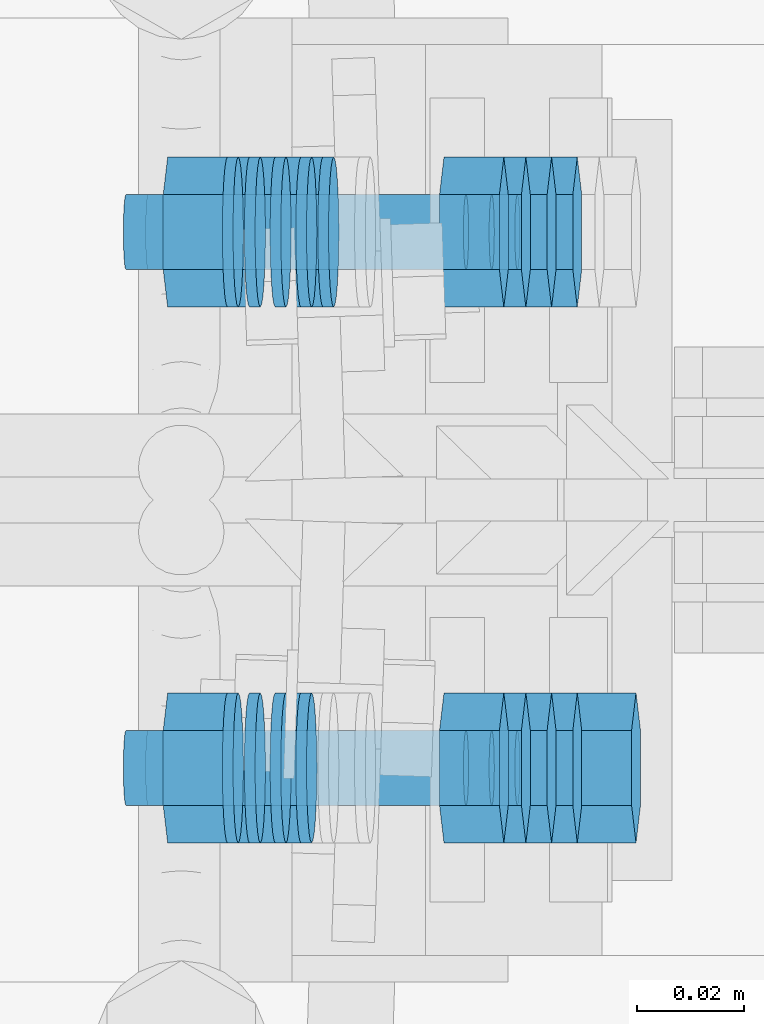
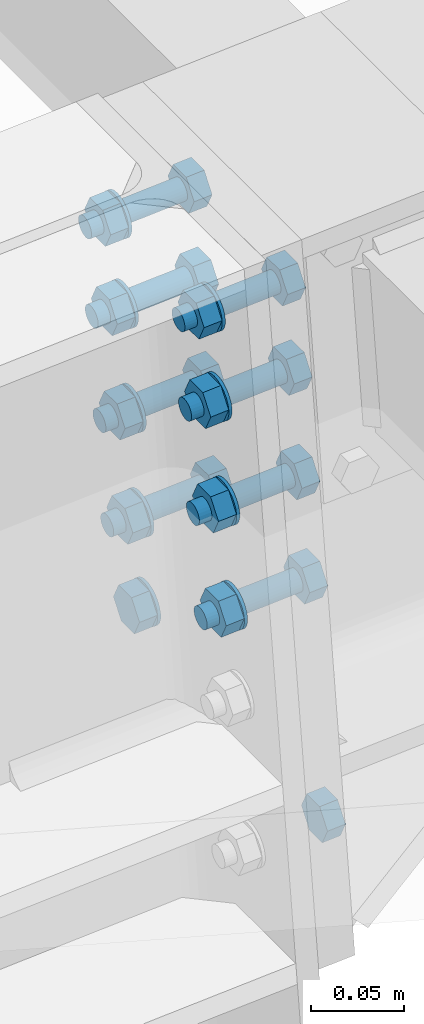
# One storey, part 36 of 72: 35 mechanical fasteners.
"""IFC4 building model written with IfcOpenShell, lengths in metres."""

import ifcopenshell
import ifcopenshell.guid

model = None  # the IFC model being written
_history = None  # IfcOwnerHistory: only IFC2X3 demands one
_inside = {}  # id of a spatial element -> (the spatial element, [elements in it])
_under = {}  # id of a project, library or spatial element -> (it, [spatial elements below it])
_declared = {}  # id of a project -> (the project, [libraries it declares])
_typed = {}  # id of a type object -> (the type object, [elements of that type])
_made_of = {}  # id of a material, layer set ... -> (it, [elements and type objects made of it])


def new_model(schema):
    """Start an empty IFC model of exactly this schema.

    Asked for "IFC4X3", IfcOpenShell would pick the latest addendum, in which some entities
    have other attributes; the version numbers below select the first issue.
    IFC2X3 requires an IfcOwnerHistory on every rooted entity: one is made here for all.
    """
    global model, _history
    if schema == "IFC4X3":
        model = ifcopenshell.file(schema_version=(4, 3, 0, 0))
    else:
        model = ifcopenshell.file(schema=schema)
    _inside.clear()
    _under.clear()
    _declared.clear()
    _typed.clear()
    _made_of.clear()
    _history = None
    if model.schema == "IFC2X3":
        org = make("IfcOrganization", Name="unknown")
        user = make(
            "IfcPersonAndOrganization",
            ThePerson=make("IfcPerson", FamilyName="unknown"),
            TheOrganization=org,
        )
        app = make(
            "IfcApplication",
            ApplicationDeveloper=org,
            Version="unknown",
            ApplicationFullName="unknown",
            ApplicationIdentifier="unknown",
        )
        _history = make(
            "IfcOwnerHistory",
            OwningUser=user,
            OwningApplication=app,
            ChangeAction="ADDED",
            CreationDate=0,
        )
    return model


def make(cls, **values):
    """One entity of the class cls with the attributes given. An attribute that is None is left unset."""
    return model.create_entity(
        cls, **{name: value for name, value in values.items() if value is not None}
    )


def rooted(cls, **values):
    """An entity with a GlobalId (a new one), such as an element, a storey or a relation."""
    return make(cls, GlobalId=ifcopenshell.guid.new(), OwnerHistory=_history, **values)


def si_unit(unit_type, name, prefix=None):
    """IfcSIUnit, for example si_unit("LENGTHUNIT", "METRE", prefix="MILLI")."""
    return make("IfcSIUnit", UnitType=unit_type, Prefix=prefix, Name=name)


def assignment(units):
    """IfcUnitAssignment: the units of a project."""
    return None if units is None else make("IfcUnitAssignment", Units=units)


def point(xyz):
    """IfcCartesianPoint."""
    return None if xyz is None else make("IfcCartesianPoint", Coordinates=xyz)


def direction(xyz):
    """IfcDirection."""
    return None if xyz is None else make("IfcDirection", DirectionRatios=xyz)


def frame(location, z_axis=None, x_axis=None):
    """IfcAxis2Placement3D, a coordinate frame: its origin and axes. An axis left out is left unset."""
    return make(
        "IfcAxis2Placement3D",
        Location=point(location),
        Axis=direction(z_axis),
        RefDirection=direction(x_axis),
    )


def origin_with_axes():
    """The frame at (0, 0, 0) with the z axis (0, 0, 1) and the x axis (1, 0, 0) written out."""
    return frame((0.0, 0.0, 0.0), z_axis=(0.0, 0.0, 1.0), x_axis=(1.0, 0.0, 0.0))


def place(relative_to, where):
    """IfcLocalPlacement: puts the frame where relative to a parent placement (None: the world)."""
    return make(
        "IfcLocalPlacement", PlacementRelTo=relative_to, RelativePlacement=where
    )


def context(
    kind, dimensions, precision=None, world=None, true_north=None, identifier=None
):
    """IfcGeometricRepresentationContext, for example the 3D "Model" context."""
    return make(
        "IfcGeometricRepresentationContext",
        ContextIdentifier=identifier,
        ContextType=kind,
        CoordinateSpaceDimension=dimensions,
        Precision=precision,
        WorldCoordinateSystem=world,
        TrueNorth=true_north,
    )


def project(units=None, contexts=None):
    """IfcProject with its units and contexts."""
    return rooted(
        "IfcProject",
        Name="project",
        RepresentationContexts=contexts,
        UnitsInContext=assignment(units),
    )


def spatial(cls, under=None, at=None, **own):
    """A site, building, storey or space (cls), placed at a placement, below another one or the project."""
    s = rooted(cls, ObjectPlacement=at, **own)
    if under is not None:
        _under.setdefault(under.id(), (under, []))[1].append(s)
    return s


def polyline(points):
    """IfcPolyline through the points."""
    return make("IfcPolyline", Points=[point(p) for p in points])


def outline(outer, holes=None, kind="AREA"):
    """IfcArbitraryClosedProfileDef: a profile drawn as a closed curve; with holes, ...WithVoids."""
    if holes is None:
        return make("IfcArbitraryClosedProfileDef", ProfileType=kind, OuterCurve=outer)
    return make(
        "IfcArbitraryProfileDefWithVoids",
        ProfileType=kind,
        OuterCurve=outer,
        InnerCurves=holes,
    )


def extrude(swept, where, along, depth):
    """IfcExtrudedAreaSolid: the profile swept, set in the frame where, extruded along a direction by depth."""
    return make(
        "IfcExtrudedAreaSolid",
        SweptArea=swept,
        Position=where,
        ExtrudedDirection=direction(along),
        Depth=depth,
    )


def shape(context_of_items, identifier, shape_type, items):
    """IfcShapeRepresentation: the items that make up one representation, for example the "Body"."""
    return make(
        "IfcShapeRepresentation",
        ContextOfItems=context_of_items,
        RepresentationIdentifier=identifier,
        RepresentationType=shape_type,
        Items=items,
    )


def made_of(thing, what):
    """Note that an element or type object is made of a material, layer set ...; save() writes the relation."""
    if what is not None:
        _made_of.setdefault(what.id(), (what, []))[1].append(thing)
    return thing


def type_object(cls, material=None, **own):
    """A type object (cls), such as IfcWallType, which elements share."""
    return made_of(rooted(cls, **own), material)


def element(
    cls,
    number,
    at=None,
    inside=None,
    cuts=None,
    type_object=None,
    material=None,
    context=None,
    identifier="Body",
    shape_type=None,
    held_by="IfcProductDefinitionShape",
    body=None,
    shapes=None,
    **own,
):
    """One element of the class cls, such as IfcWall. Its Tag is "e" and its number.

    at: its placement. inside: the storey or other place that contains it. cuts: it is an
    opening in that element (IfcRelVoidsElement). A single representation is given by context,
    identifier, shape_type and body (its items); several are given by shapes. held_by: the class
    of the entity that holds the representations. save() writes the other relations.
    """
    e = rooted(cls, Tag="e%d" % number, ObjectPlacement=at, **own)
    if body is not None:
        shapes = [shape(context, identifier, shape_type, body)]
    if shapes is not None:
        e.Representation = make(held_by, Representations=shapes)
    if inside is not None:
        _inside.setdefault(inside.id(), (inside, []))[1].append(e)
    if cuts is not None:
        rooted(
            "IfcRelVoidsElement", RelatingBuildingElement=cuts, RelatedOpeningElement=e
        )
    if type_object is not None:
        _typed.setdefault(type_object.id(), (type_object, []))[1].append(e)
    return made_of(e, material)


def aggregate(whole, parts):
    """IfcRelAggregates: a whole, such as a stair, and the parts it consists of."""
    return rooted("IfcRelAggregates", RelatingObject=whole, RelatedObjects=parts)


def save(model, path):
    """Write the relations noted so far, then the file.

    IfcRelAggregates (storeys below a building ...), IfcRelContainedInSpatialStructure (elements
    in a storey), IfcRelDefinesByType, IfcRelAssociatesMaterial and IfcRelDeclares: one each for
    every whole, place, type object, material and project.
    """
    for whole, parts in _under.values():
        aggregate(whole, parts)
    for where, things in _inside.values():
        rooted(
            "IfcRelContainedInSpatialStructure",
            RelatedElements=things,
            RelatingStructure=where,
        )
    for kind, things in _typed.values():
        rooted("IfcRelDefinesByType", RelatedObjects=things, RelatingType=kind)
    for what, things in _made_of.values():
        rooted("IfcRelAssociatesMaterial", RelatedObjects=things, RelatingMaterial=what)
    for by, libraries in _declared.values():
        rooted("IfcRelDeclares", RelatingContext=by, RelatedDefinitions=libraries)
    model.write(path)


model = new_model("IFC4")

# Units and contexts
model_context = context("Model", 3, precision=1e-05, world=origin_with_axes())
ifc_project = project(units=[si_unit("LENGTHUNIT", "METRE"), si_unit("AREAUNIT", "SQUARE_METRE"), si_unit("VOLUMEUNIT", "CUBIC_METRE"), si_unit("MASSUNIT", "GRAM", prefix="KILO"), si_unit("TIMEUNIT", "SECOND"), si_unit("PLANEANGLEUNIT", "RADIAN"), si_unit("SOLIDANGLEUNIT", "STERADIAN"), si_unit("THERMODYNAMICTEMPERATUREUNIT", "DEGREE_CELSIUS")], contexts=[model_context])

# Site, building, storey
placement_1 = place(None, origin_with_axes())
site = spatial("IfcSite", under=ifc_project, at=placement_1, Name="Italia", CompositionType="ELEMENT")
building = spatial("IfcBuilding", under=site, at=placement_1, Name="Pensilina", CompositionType="ELEMENT")
storey = spatial("IfcBuildingStorey", under=building, at=placement_1, Name="Storey 0", CompositionType="ELEMENT", Elevation=0.0)

# Mechanical fasteners
mechanical_fastener_type_1 = type_object("IfcMechanicalFastenerType", Name="Collegamento 0102_0202", PredefinedType="BOLT")
placement_2 = place(placement_1, origin_with_axes())
mechanical_fastener_1_placement = place(placement_2, origin_with_axes())
element("IfcMechanicalFastener", 1, at=mechanical_fastener_1_placement, inside=storey, type_object=mechanical_fastener_type_1, Name="Collegamento 0102_0202", NominalDiameter=0.0139999, context=model_context, shape_type="SweptSolid", body=[
    extrude(outline(polyline([(0.0, 0.0, 0.0), (-0.0139999, 0.0, 0.0), (-0.0210004, 0.0121245, 0.0), (-0.0139999, 0.0242488, 0.0), (0.0, 0.0242488, 0.0), (0.00699997, 0.0121245, 0.0), (0.0, 0.0, 0.0)])), frame((0.872163, 5.337, 3.5038), z_axis=(0.997648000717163, 0.0, 0.068545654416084), x_axis=(0.0, 1.0, 0.0)), (0.0, 0.0, 1.0), 0.0111999),
])
mechanical_fastener_type_2 = type_object("IfcMechanicalFastenerType", Name="Collegamento 0102_0202", PredefinedType="BOLT")
mechanical_fastener_2_placement = place(placement_2, origin_with_axes())
element("IfcMechanicalFastener", 2, at=mechanical_fastener_2_placement, inside=storey, type_object=mechanical_fastener_type_2, Name="Collegamento 0102_0202", NominalDiameter=0.028, context=model_context, shape_type="SweptSolid", body=[
    extrude(outline(polyline([(0.0, 0.0, 0.0), (-0.000476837, -0.00362349, 0.0), (-0.0018754, -0.00699997, 0.0), (-0.00410032, -0.00989938, 0.0), (-0.00699997, -0.0121243, 0.0), (-0.0103765, -0.0135229, 0.0), (-0.0139999, -0.0139999, 0.0), (-0.0176234, -0.0135229, 0.0), (-0.0209999, -0.0121243, 0.0), (-0.0238996, -0.00989938, 0.0), (-0.0261245, -0.00699997, 0.0), (-0.027523, -0.00362349, 0.0), (-0.0279999, 0.0, 0.0), (-0.027523, 0.00362349, 0.0), (-0.0261245, 0.00699997, 0.0), (-0.0238996, 0.00989962, 0.0), (-0.0209999, 0.0121245, 0.0), (-0.0176234, 0.0135231, 0.0), (-0.0139999, 0.0139999, 0.0), (-0.0103765, 0.0135231, 0.0), (-0.00699997, 0.0121245, 0.0), (-0.00410032, 0.00989962, 0.0), (-0.0018754, 0.00699997, 0.0), (-0.000476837, 0.00362349, 0.0), (0.0, 0.0, 0.0)])), frame((0.882506, 5.344, 3.51666), z_axis=(0.997648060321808, 0.0, 0.06854435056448), x_axis=(0.0, 1.0, 0.0)), (0.0, 0.0, 1.0), 0.00200003),
])
mechanical_fastener_type_3 = type_object("IfcMechanicalFastenerType", Name="Collegamento 0102_0202", PredefinedType="BOLT")
mechanical_fastener_3_placement = place(placement_2, origin_with_axes())
element("IfcMechanicalFastener", 3, at=mechanical_fastener_3_placement, inside=storey, type_object=mechanical_fastener_type_3, Name="Collegamento 0102_0202", NominalDiameter=0.0139999, context=model_context, shape_type="SweptSolid", body=[
    extrude(outline(polyline([(0.0, 0.0, 0.0), (-0.0139999, 0.0, 0.0), (-0.0209999, 0.0121243, 0.0), (-0.0139999, 0.0242488, 0.0), (0.0, 0.0242488, 0.0), (0.00700045, 0.0121243, 0.0), (0.0, 0.0, 0.0)])), frame((0.919629, 5.237, 3.5672), z_axis=(0.997649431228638, 0.0, 0.068524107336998), x_axis=(0.0, 1.0, 0.0)), (0.0, 0.0, 1.0), 0.0112),
])
mechanical_fastener_type_4 = type_object("IfcMechanicalFastenerType", Name="Collegamento 0102_0202", PredefinedType="BOLT")
mechanical_fastener_4_placement = place(placement_2, origin_with_axes())
element("IfcMechanicalFastener", 4, at=mechanical_fastener_4_placement, inside=storey, type_object=mechanical_fastener_type_4, Name="Collegamento 0102_0202", NominalDiameter=0.014, context=model_context, shape_type="SweptSolid", body=[
    extrude(outline(polyline([(0.0, 0.0, 0.0), (-0.000238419, -0.00181174, 0.0), (-0.000937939, -0.00349998, 0.0), (-0.0020504, -0.00494981, 0.0), (-0.00349998, -0.00606227, 0.0), (-0.00518847, -0.00676155, 0.0), (-0.00699997, -0.00699997, 0.0), (-0.00881147, -0.00676155, 0.0), (-0.0105, -0.00606227, 0.0), (-0.0119495, -0.00494981, 0.0), (-0.013062, -0.00349998, 0.0), (-0.0137615, -0.00181174, 0.0), (-0.0139999, 0.0, 0.0), (-0.0137615, 0.00181174, 0.0), (-0.013062, 0.00350022, 0.0), (-0.0119495, 0.00494981, 0.0), (-0.0105, 0.00606227, 0.0), (-0.00881147, 0.00676155, 0.0), (-0.00699997, 0.00699997, 0.0), (-0.00518847, 0.00676155, 0.0), (-0.00349998, 0.00606227, 0.0), (-0.0020504, 0.00494981, 0.0), (-0.000937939, 0.00350022, 0.0), (-0.000238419, 0.00181174, 0.0), (0.0, 0.0, 0.0)])), frame((0.859438, 5.237, 3.57522), z_axis=(0.997648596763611, 0.0, 0.068536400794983), x_axis=(0.0, 1.0, 0.0)), (0.0, 0.0, 1.0), 0.0594999),
])
mechanical_fastener_type_5 = type_object("IfcMechanicalFastenerType", Name="Collegamento 0102_0202", PredefinedType="BOLT")
mechanical_fastener_5_placement = place(placement_2, origin_with_axes())
element("IfcMechanicalFastener", 5, at=mechanical_fastener_5_placement, inside=storey, type_object=mechanical_fastener_type_5, Name="Collegamento 0102_0202", NominalDiameter=0.0139999, context=model_context, shape_type="SweptSolid", body=[
    extrude(outline(polyline([(0.0, 0.0, 0.0), (-0.0139999, 0.0, 0.0), (-0.0209999, 0.0121243, 0.0), (-0.0139999, 0.0242486, 0.0), (0.0, 0.0242486, 0.0), (0.00700045, 0.0121243, 0.0), (0.0, 0.0, 0.0)])), frame((0.868051, 5.237, 3.56365), z_axis=(0.997648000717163, 0.0, 0.068545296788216), x_axis=(0.0, 1.0, 0.0)), (0.0, 0.0, 1.0), 0.0112),
])
mechanical_fastener_type_6 = type_object("IfcMechanicalFastenerType", Name="Collegamento 0102_0202", PredefinedType="BOLT")
mechanical_fastener_6_placement = place(placement_2, origin_with_axes())
element("IfcMechanicalFastener", 6, at=mechanical_fastener_6_placement, inside=storey, type_object=mechanical_fastener_type_6, Name="Collegamento 0102_0202", NominalDiameter=0.028, context=model_context, shape_type="SweptSolid", body=[
    extrude(outline(polyline([(0.0, 0.0, 0.0), (-0.000476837, -0.00362349, 0.0), (-0.0018754, -0.00699997, 0.0), (-0.00410032, -0.00989962, 0.0), (-0.00699997, -0.0121245, 0.0), (-0.0103765, -0.0135229, 0.0), (-0.0139999, -0.0139999, 0.0), (-0.0176234, -0.0135229, 0.0), (-0.0209999, -0.0121245, 0.0), (-0.0238996, -0.00989962, 0.0), (-0.0261245, -0.00699997, 0.0), (-0.027523, -0.00362349, 0.0), (-0.0279999, 0.0, 0.0), (-0.027523, 0.00362349, 0.0), (-0.0261245, 0.00699997, 0.0), (-0.0238996, 0.00989962, 0.0), (-0.0209999, 0.0121245, 0.0), (-0.0176234, 0.0135229, 0.0), (-0.0139999, 0.0139999, 0.0), (-0.0103765, 0.0135229, 0.0), (-0.00699997, 0.0121245, 0.0), (-0.00410032, 0.00989962, 0.0), (-0.0018754, 0.00699997, 0.0), (-0.000476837, 0.00362349, 0.0), (0.0, 0.0, 0.0)])), frame((0.878394, 5.244, 3.57652), z_axis=(0.997648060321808, 0.0, 0.06854435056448), x_axis=(0.0, 1.0, 0.0)), (0.0, 0.0, 1.0), 0.00200003),
])
mechanical_fastener_type_7 = type_object("IfcMechanicalFastenerType", Name="Collegamento 0102_0202", PredefinedType="BOLT")
mechanical_fastener_7_placement = place(placement_2, origin_with_axes())
element("IfcMechanicalFastener", 7, at=mechanical_fastener_7_placement, inside=storey, type_object=mechanical_fastener_type_7, Name="Collegamento 0102_0202", NominalDiameter=0.0139999, context=model_context, shape_type="SweptSolid", body=[
    extrude(outline(polyline([(0.0, 0.0, 0.0), (-0.0139999, 0.0, 0.0), (-0.0210004, 0.0121243, 0.0), (-0.0139999, 0.0242488, 0.0), (0.0, 0.0242488, 0.0), (0.00699997, 0.0121243, 0.0), (0.0, 0.0, 0.0)])), frame((0.919629, 5.337, 3.5672), z_axis=(0.997649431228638, 0.0, 0.068524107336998), x_axis=(0.0, 1.0, 0.0)), (0.0, 0.0, 1.0), 0.0112),
])
mechanical_fastener_type_8 = type_object("IfcMechanicalFastenerType", Name="Collegamento 0102_0202", PredefinedType="BOLT")
mechanical_fastener_8_placement = place(placement_2, origin_with_axes())
element("IfcMechanicalFastener", 8, at=mechanical_fastener_8_placement, inside=storey, type_object=mechanical_fastener_type_8, Name="Collegamento 0102_0202", NominalDiameter=0.014, context=model_context, shape_type="SweptSolid", body=[
    extrude(outline(polyline([(0.0, 0.0, 0.0), (-0.000238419, -0.00181174, 0.0), (-0.000937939, -0.00349998, 0.0), (-0.0020504, -0.00494981, 0.0), (-0.00349998, -0.00606227, 0.0), (-0.00518847, -0.00676155, 0.0), (-0.00699997, -0.00699997, 0.0), (-0.00881147, -0.00676155, 0.0), (-0.0105, -0.00606227, 0.0), (-0.0119495, -0.00494981, 0.0), (-0.013062, -0.00349998, 0.0), (-0.0137615, -0.00181174, 0.0), (-0.0139999, 0.0, 0.0), (-0.0137615, 0.00181174, 0.0), (-0.013062, 0.00350022, 0.0), (-0.0119495, 0.00494981, 0.0), (-0.0105, 0.00606227, 0.0), (-0.00881147, 0.00676155, 0.0), (-0.00699997, 0.00699997, 0.0), (-0.00518847, 0.00676155, 0.0), (-0.00349998, 0.00606227, 0.0), (-0.0020504, 0.00494981, 0.0), (-0.000937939, 0.00350022, 0.0), (-0.000238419, 0.00181174, 0.0), (0.0, 0.0, 0.0)])), frame((0.859438, 5.337, 3.57522), z_axis=(0.997648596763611, 0.0, 0.068536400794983), x_axis=(0.0, 1.0, 0.0)), (0.0, 0.0, 1.0), 0.0594999),
])
mechanical_fastener_type_9 = type_object("IfcMechanicalFastenerType", Name="Collegamento 0102_0202", PredefinedType="BOLT")
mechanical_fastener_9_placement = place(placement_2, origin_with_axes())
element("IfcMechanicalFastener", 9, at=mechanical_fastener_9_placement, inside=storey, type_object=mechanical_fastener_type_9, Name="Collegamento 0102_0202", NominalDiameter=0.0139999, context=model_context, shape_type="SweptSolid", body=[
    extrude(outline(polyline([(0.0, 0.0, 0.0), (-0.0139999, 0.0, 0.0), (-0.0210004, 0.0121243, 0.0), (-0.0139999, 0.0242486, 0.0), (0.0, 0.0242486, 0.0), (0.00699997, 0.0121243, 0.0), (0.0, 0.0, 0.0)])), frame((0.868051, 5.337, 3.56365), z_axis=(0.997648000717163, 0.0, 0.068545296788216), x_axis=(0.0, 1.0, 0.0)), (0.0, 0.0, 1.0), 0.0112),
])
mechanical_fastener_type_10 = type_object("IfcMechanicalFastenerType", Name="Collegamento 0102_0202", PredefinedType="BOLT")
mechanical_fastener_10_placement = place(placement_2, origin_with_axes())
element("IfcMechanicalFastener", 10, at=mechanical_fastener_10_placement, inside=storey, type_object=mechanical_fastener_type_10, Name="Collegamento 0102_0202", NominalDiameter=0.028, context=model_context, shape_type="SweptSolid", body=[
    extrude(outline(polyline([(0.0, 0.0, 0.0), (-0.000476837, -0.00362349, 0.0), (-0.0018754, -0.00699997, 0.0), (-0.00410032, -0.00989962, 0.0), (-0.00699997, -0.0121245, 0.0), (-0.0103765, -0.0135229, 0.0), (-0.0139999, -0.0139999, 0.0), (-0.0176234, -0.0135229, 0.0), (-0.0209999, -0.0121245, 0.0), (-0.0238996, -0.00989962, 0.0), (-0.0261245, -0.00699997, 0.0), (-0.027523, -0.00362349, 0.0), (-0.0279999, 0.0, 0.0), (-0.027523, 0.00362349, 0.0), (-0.0261245, 0.00699997, 0.0), (-0.0238996, 0.00989962, 0.0), (-0.0209999, 0.0121245, 0.0), (-0.0176234, 0.0135229, 0.0), (-0.0139999, 0.0139999, 0.0), (-0.0103765, 0.0135229, 0.0), (-0.00699997, 0.0121245, 0.0), (-0.00410032, 0.00989962, 0.0), (-0.0018754, 0.00699997, 0.0), (-0.000476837, 0.00362349, 0.0), (0.0, 0.0, 0.0)])), frame((0.878394, 5.344, 3.57652), z_axis=(0.997648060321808, 0.0, 0.06854435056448), x_axis=(0.0, 1.0, 0.0)), (0.0, 0.0, 1.0), 0.00200003),
])
mechanical_fastener_type_11 = type_object("IfcMechanicalFastenerType", Name="Collegamento 0102_0202", PredefinedType="BOLT")
mechanical_fastener_11_placement = place(placement_2, origin_with_axes())
element("IfcMechanicalFastener", 11, at=mechanical_fastener_11_placement, inside=storey, type_object=mechanical_fastener_type_11, Name="Collegamento 0102_0202", NominalDiameter=0.0139999, context=model_context, shape_type="SweptSolid", body=[
    extrude(outline(polyline([(0.0, 0.0, 0.0), (-0.0139999, 0.0, 0.0), (-0.0209999, 0.0121243, 0.0), (-0.0139999, 0.0242488, 0.0), (0.0, 0.0242488, 0.0), (0.00700045, 0.0121243, 0.0), (0.0, 0.0, 0.0)])), frame((0.914832, 5.237, 3.63703), z_axis=(0.997648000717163, 0.0, 0.068545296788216), x_axis=(0.0, 1.0, 0.0)), (0.0, 0.0, 1.0), 0.0112),
])
mechanical_fastener_type_12 = type_object("IfcMechanicalFastenerType", Name="Collegamento 0102_0202", PredefinedType="BOLT")
mechanical_fastener_12_placement = place(placement_2, origin_with_axes())
element("IfcMechanicalFastener", 12, at=mechanical_fastener_12_placement, inside=storey, type_object=mechanical_fastener_type_12, Name="Collegamento 0102_0202", NominalDiameter=0.014, context=model_context, shape_type="SweptSolid", body=[
    extrude(outline(polyline([(0.0, 0.0, 0.0), (-0.000238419, -0.00181174, 0.0), (-0.000937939, -0.00350022, 0.0), (-0.0020504, -0.00494981, 0.0), (-0.00349998, -0.00606227, 0.0), (-0.00518847, -0.00676155, 0.0), (-0.00699997, -0.00699997, 0.0), (-0.00881147, -0.00676155, 0.0), (-0.0105, -0.00606227, 0.0), (-0.0119495, -0.00494981, 0.0), (-0.013062, -0.00350022, 0.0), (-0.0137615, -0.00181174, 0.0), (-0.0139999, 0.0, 0.0), (-0.0137615, 0.00181174, 0.0), (-0.013062, 0.00349998, 0.0), (-0.0119495, 0.00494957, 0.0), (-0.0105, 0.00606203, 0.0), (-0.00881147, 0.00676131, 0.0), (-0.00699997, 0.00699997, 0.0), (-0.00518847, 0.00676131, 0.0), (-0.00349998, 0.00606203, 0.0), (-0.0020504, 0.00494957, 0.0), (-0.000937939, 0.00349998, 0.0), (-0.000238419, 0.00181174, 0.0), (0.0, 0.0, 0.0)])), frame((0.85464, 5.237, 3.64505), z_axis=(0.997648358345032, 0.0, 0.068540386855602), x_axis=(0.0, 1.0, 0.0)), (0.0, 0.0, 1.0), 0.0595),
])
mechanical_fastener_type_13 = type_object("IfcMechanicalFastenerType", Name="Collegamento 0102_0202", PredefinedType="BOLT")
mechanical_fastener_13_placement = place(placement_2, origin_with_axes())
element("IfcMechanicalFastener", 13, at=mechanical_fastener_13_placement, inside=storey, type_object=mechanical_fastener_type_13, Name="Collegamento 0102_0202", NominalDiameter=0.0139999, context=model_context, shape_type="SweptSolid", body=[
    extrude(outline(polyline([(0.0, 0.0, 0.0), (-0.0139999, 0.0, 0.0), (-0.0209999, 0.0121243, 0.0), (-0.0139999, 0.0242486, 0.0), (0.0, 0.0242486, 0.0), (0.00700045, 0.0121243, 0.0), (0.0, 0.0, 0.0)])), frame((0.863253, 5.237, 3.63349), z_axis=(0.997649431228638, 0.0, 0.068524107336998), x_axis=(0.0, 1.0, 0.0)), (0.0, 0.0, 1.0), 0.0112),
])
mechanical_fastener_type_14 = type_object("IfcMechanicalFastenerType", Name="Collegamento 0102_0202", PredefinedType="BOLT")
mechanical_fastener_14_placement = place(placement_2, origin_with_axes())
element("IfcMechanicalFastener", 14, at=mechanical_fastener_14_placement, inside=storey, type_object=mechanical_fastener_type_14, Name="Collegamento 0102_0202", NominalDiameter=0.028, context=model_context, shape_type="SweptSolid", body=[
    extrude(outline(polyline([(0.0, 0.0, 0.0), (-0.000476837, -0.00362349, 0.0), (-0.0018754, -0.00699997, 0.0), (-0.00410032, -0.00989938, 0.0), (-0.00699997, -0.0121243, 0.0), (-0.0103765, -0.0135229, 0.0), (-0.0139999, -0.0139999, 0.0), (-0.0176234, -0.0135229, 0.0), (-0.0209999, -0.0121243, 0.0), (-0.0238996, -0.00989938, 0.0), (-0.0261245, -0.00699997, 0.0), (-0.027523, -0.00362349, 0.0), (-0.0279999, 0.0, 0.0), (-0.027523, 0.00362349, 0.0), (-0.0261245, 0.00699997, 0.0), (-0.0238996, 0.00989962, 0.0), (-0.0209999, 0.0121245, 0.0), (-0.0176234, 0.0135231, 0.0), (-0.0139999, 0.0139999, 0.0), (-0.0103765, 0.0135231, 0.0), (-0.00699997, 0.0121245, 0.0), (-0.00410032, 0.00989962, 0.0), (-0.0018754, 0.00699997, 0.0), (-0.000476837, 0.00362349, 0.0), (0.0, 0.0, 0.0)])), frame((0.873596, 5.244, 3.64635), z_axis=(0.997647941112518, 0.0, 0.068546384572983), x_axis=(0.0, 1.0, 0.0)), (0.0, 0.0, 1.0), 0.00199997),
])
mechanical_fastener_type_15 = type_object("IfcMechanicalFastenerType", Name="Collegamento 0102_0202", PredefinedType="BOLT")
mechanical_fastener_15_placement = place(placement_2, origin_with_axes())
element("IfcMechanicalFastener", 15, at=mechanical_fastener_15_placement, inside=storey, type_object=mechanical_fastener_type_15, Name="Collegamento 0102_0202", NominalDiameter=0.0139999, context=model_context, shape_type="SweptSolid", body=[
    extrude(outline(polyline([(0.0, 0.0, 0.0), (-0.0139999, 0.0, 0.0), (-0.0210004, 0.0121243, 0.0), (-0.0139999, 0.0242488, 0.0), (0.0, 0.0242488, 0.0), (0.00699997, 0.0121243, 0.0), (0.0, 0.0, 0.0)])), frame((0.914832, 5.337, 3.63703), z_axis=(0.997648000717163, 0.0, 0.068545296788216), x_axis=(0.0, 1.0, 0.0)), (0.0, 0.0, 1.0), 0.0112),
])
mechanical_fastener_type_16 = type_object("IfcMechanicalFastenerType", Name="Collegamento 0102_0202", PredefinedType="BOLT")
mechanical_fastener_16_placement = place(placement_2, origin_with_axes())
element("IfcMechanicalFastener", 16, at=mechanical_fastener_16_placement, inside=storey, type_object=mechanical_fastener_type_16, Name="Collegamento 0102_0202", NominalDiameter=0.014, context=model_context, shape_type="SweptSolid", body=[
    extrude(outline(polyline([(0.0, 0.0, 0.0), (-0.000238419, -0.00181174, 0.0), (-0.000937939, -0.00350022, 0.0), (-0.0020504, -0.00494981, 0.0), (-0.00349998, -0.00606227, 0.0), (-0.00518847, -0.00676155, 0.0), (-0.00699997, -0.00699997, 0.0), (-0.00881147, -0.00676155, 0.0), (-0.0105, -0.00606227, 0.0), (-0.0119495, -0.00494981, 0.0), (-0.013062, -0.00350022, 0.0), (-0.0137615, -0.00181174, 0.0), (-0.0139999, 0.0, 0.0), (-0.0137615, 0.00181174, 0.0), (-0.013062, 0.00349998, 0.0), (-0.0119495, 0.00494957, 0.0), (-0.0105, 0.00606203, 0.0), (-0.00881147, 0.00676131, 0.0), (-0.00699997, 0.00699997, 0.0), (-0.00518847, 0.00676131, 0.0), (-0.00349998, 0.00606203, 0.0), (-0.0020504, 0.00494957, 0.0), (-0.000937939, 0.00349998, 0.0), (-0.000238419, 0.00181174, 0.0), (0.0, 0.0, 0.0)])), frame((0.85464, 5.337, 3.64505), z_axis=(0.997648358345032, 0.0, 0.068540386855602), x_axis=(0.0, 1.0, 0.0)), (0.0, 0.0, 1.0), 0.0595),
])
mechanical_fastener_type_17 = type_object("IfcMechanicalFastenerType", Name="Collegamento 0102_0202", PredefinedType="BOLT")
mechanical_fastener_17_placement = place(placement_2, origin_with_axes())
element("IfcMechanicalFastener", 17, at=mechanical_fastener_17_placement, inside=storey, type_object=mechanical_fastener_type_17, Name="Collegamento 0102_0202", NominalDiameter=0.0139999, context=model_context, shape_type="SweptSolid", body=[
    extrude(outline(polyline([(0.0, 0.0, 0.0), (-0.0139999, 0.0, 0.0), (-0.0210004, 0.0121243, 0.0), (-0.0139999, 0.0242486, 0.0), (0.0, 0.0242486, 0.0), (0.00699997, 0.0121243, 0.0), (0.0, 0.0, 0.0)])), frame((0.863253, 5.337, 3.63349), z_axis=(0.997649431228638, 0.0, 0.068524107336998), x_axis=(0.0, 1.0, 0.0)), (0.0, 0.0, 1.0), 0.0112),
])
mechanical_fastener_type_18 = type_object("IfcMechanicalFastenerType", Name="Collegamento 0102_0202", PredefinedType="BOLT")
mechanical_fastener_18_placement = place(placement_2, origin_with_axes())
element("IfcMechanicalFastener", 18, at=mechanical_fastener_18_placement, inside=storey, type_object=mechanical_fastener_type_18, Name="Collegamento 0102_0202", NominalDiameter=0.028, context=model_context, shape_type="SweptSolid", body=[
    extrude(outline(polyline([(0.0, 0.0, 0.0), (-0.000476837, -0.00362349, 0.0), (-0.0018754, -0.00699997, 0.0), (-0.00410032, -0.00989938, 0.0), (-0.00699997, -0.0121243, 0.0), (-0.0103765, -0.0135229, 0.0), (-0.0139999, -0.0139999, 0.0), (-0.0176234, -0.0135229, 0.0), (-0.0209999, -0.0121243, 0.0), (-0.0238996, -0.00989938, 0.0), (-0.0261245, -0.00699997, 0.0), (-0.027523, -0.00362349, 0.0), (-0.0279999, 0.0, 0.0), (-0.027523, 0.00362349, 0.0), (-0.0261245, 0.00699997, 0.0), (-0.0238996, 0.00989962, 0.0), (-0.0209999, 0.0121245, 0.0), (-0.0176234, 0.0135231, 0.0), (-0.0139999, 0.0139999, 0.0), (-0.0103765, 0.0135231, 0.0), (-0.00699997, 0.0121245, 0.0), (-0.00410032, 0.00989962, 0.0), (-0.0018754, 0.00699997, 0.0), (-0.000476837, 0.00362349, 0.0), (0.0, 0.0, 0.0)])), frame((0.873596, 5.344, 3.64635), z_axis=(0.997647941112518, 0.0, 0.068546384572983), x_axis=(0.0, 1.0, 0.0)), (0.0, 0.0, 1.0), 0.00199997),
])
mechanical_fastener_type_19 = type_object("IfcMechanicalFastenerType", Name="Collegamento 0102_0202", PredefinedType="BOLT")
mechanical_fastener_19_placement = place(placement_2, origin_with_axes())
element("IfcMechanicalFastener", 19, at=mechanical_fastener_19_placement, inside=storey, type_object=mechanical_fastener_type_19, Name="Collegamento 0102_0202", NominalDiameter=0.0139999, context=model_context, shape_type="SweptSolid", body=[
    extrude(outline(polyline([(0.0, 0.0, 0.0), (-0.0139999, 0.0, 0.0), (-0.0209999, 0.0121245, 0.0), (-0.0139999, 0.0242486, 0.0), (0.0, 0.0242486, 0.0), (0.00700045, 0.0121245, 0.0), (0.0, 0.0, 0.0)])), frame((0.910034, 5.237, 3.70687), z_axis=(0.997648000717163, 0.0, 0.068545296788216), x_axis=(0.0, 1.0, 0.0)), (0.0, 0.0, 1.0), 0.0112),
])
mechanical_fastener_type_20 = type_object("IfcMechanicalFastenerType", Name="Collegamento 0102_0202", PredefinedType="BOLT")
mechanical_fastener_20_placement = place(placement_2, origin_with_axes())
element("IfcMechanicalFastener", 20, at=mechanical_fastener_20_placement, inside=storey, type_object=mechanical_fastener_type_20, Name="Collegamento 0102_0202", NominalDiameter=0.014, context=model_context, shape_type="SweptSolid", body=[
    extrude(outline(polyline([(0.0, 0.0, 0.0), (-0.000238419, -0.00181174, 0.0), (-0.000937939, -0.00350022, 0.0), (-0.0020504, -0.00494981, 0.0), (-0.00349998, -0.00606227, 0.0), (-0.00518847, -0.00676155, 0.0), (-0.00699997, -0.00699997, 0.0), (-0.00881147, -0.00676155, 0.0), (-0.0105, -0.00606227, 0.0), (-0.0119495, -0.00494981, 0.0), (-0.013062, -0.00350022, 0.0), (-0.0137615, -0.00181174, 0.0), (-0.0139999, 0.0, 0.0), (-0.0137615, 0.00181174, 0.0), (-0.013062, 0.00349998, 0.0), (-0.0119495, 0.00494981, 0.0), (-0.0105, 0.00606227, 0.0), (-0.00881147, 0.00676131, 0.0), (-0.00699997, 0.00699997, 0.0), (-0.00518847, 0.00676131, 0.0), (-0.00349998, 0.00606227, 0.0), (-0.0020504, 0.00494981, 0.0), (-0.000937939, 0.00349998, 0.0), (-0.000238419, 0.00181174, 0.0), (0.0, 0.0, 0.0)])), frame((0.849843, 5.237, 3.71489), z_axis=(0.997648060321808, 0.0, 0.068544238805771), x_axis=(0.0, 1.0, 0.0)), (0.0, 0.0, 1.0), 0.0595001),
])
mechanical_fastener_type_21 = type_object("IfcMechanicalFastenerType", Name="Collegamento 0102_0202", PredefinedType="BOLT")
mechanical_fastener_21_placement = place(placement_2, origin_with_axes())
element("IfcMechanicalFastener", 21, at=mechanical_fastener_21_placement, inside=storey, type_object=mechanical_fastener_type_21, Name="Collegamento 0102_0202", NominalDiameter=0.0139999, context=model_context, shape_type="SweptSolid", body=[
    extrude(outline(polyline([(0.0, 0.0, 0.0), (-0.0139999, 0.0, 0.0), (-0.0209999, 0.0121245, 0.0), (-0.0139999, 0.0242488, 0.0), (0.0, 0.0242488, 0.0), (0.00700045, 0.0121245, 0.0), (0.0, 0.0, 0.0)])), frame((0.858455, 5.237, 3.70333), z_axis=(0.997648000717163, 0.0, 0.068545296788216), x_axis=(0.0, 1.0, 0.0)), (0.0, 0.0, 1.0), 0.0112),
])
mechanical_fastener_type_22 = type_object("IfcMechanicalFastenerType", Name="Collegamento 0102_0202", PredefinedType="BOLT")
mechanical_fastener_22_placement = place(placement_2, origin_with_axes())
element("IfcMechanicalFastener", 22, at=mechanical_fastener_22_placement, inside=storey, type_object=mechanical_fastener_type_22, Name="Collegamento 0102_0202", NominalDiameter=0.028, context=model_context, shape_type="SweptSolid", body=[
    extrude(outline(polyline([(0.0, 0.0, 0.0), (-0.000476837, -0.00362349, 0.0), (-0.0018754, -0.00699997, 0.0), (-0.00410032, -0.00989962, 0.0), (-0.00699997, -0.0121245, 0.0), (-0.0103765, -0.0135229, 0.0), (-0.0139999, -0.0139999, 0.0), (-0.0176234, -0.0135229, 0.0), (-0.0209999, -0.0121245, 0.0), (-0.0238996, -0.00989962, 0.0), (-0.0261245, -0.00699997, 0.0), (-0.027523, -0.00362349, 0.0), (-0.0279999, 0.0, 0.0), (-0.027523, 0.00362349, 0.0), (-0.0261245, 0.00699997, 0.0), (-0.0238996, 0.00989962, 0.0), (-0.0209999, 0.0121245, 0.0), (-0.0176234, 0.0135229, 0.0), (-0.0139999, 0.0139999, 0.0), (-0.0103765, 0.0135229, 0.0), (-0.00699997, 0.0121245, 0.0), (-0.00410032, 0.00989962, 0.0), (-0.0018754, 0.00699997, 0.0), (-0.000476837, 0.00362349, 0.0), (0.0, 0.0, 0.0)])), frame((0.868798, 5.244, 3.71619), z_axis=(0.997648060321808, 0.0, 0.06854435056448), x_axis=(0.0, 1.0, 0.0)), (0.0, 0.0, 1.0), 0.00200003),
])
mechanical_fastener_type_23 = type_object("IfcMechanicalFastenerType", Name="Collegamento 0102_0202", PredefinedType="BOLT")
mechanical_fastener_23_placement = place(placement_2, origin_with_axes())
element("IfcMechanicalFastener", 23, at=mechanical_fastener_23_placement, inside=storey, type_object=mechanical_fastener_type_23, Name="Collegamento 0102_0202", NominalDiameter=0.0139999, context=model_context, shape_type="SweptSolid", body=[
    extrude(outline(polyline([(0.0, 0.0, 0.0), (-0.0139999, 0.0, 0.0), (-0.0210004, 0.0121245, 0.0), (-0.0139999, 0.0242486, 0.0), (0.0, 0.0242486, 0.0), (0.00699997, 0.0121245, 0.0), (0.0, 0.0, 0.0)])), frame((0.910034, 5.337, 3.70687), z_axis=(0.997648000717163, 0.0, 0.068545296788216), x_axis=(0.0, 1.0, 0.0)), (0.0, 0.0, 1.0), 0.0112),
])
mechanical_fastener_type_24 = type_object("IfcMechanicalFastenerType", Name="Collegamento 0102_0202", PredefinedType="BOLT")
mechanical_fastener_24_placement = place(placement_2, origin_with_axes())
element("IfcMechanicalFastener", 24, at=mechanical_fastener_24_placement, inside=storey, type_object=mechanical_fastener_type_24, Name="Collegamento 0102_0202", NominalDiameter=0.014, context=model_context, shape_type="SweptSolid", body=[
    extrude(outline(polyline([(0.0, 0.0, 0.0), (-0.000238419, -0.00181174, 0.0), (-0.000937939, -0.00350022, 0.0), (-0.0020504, -0.00494981, 0.0), (-0.00349998, -0.00606227, 0.0), (-0.00518847, -0.00676155, 0.0), (-0.00699997, -0.00699997, 0.0), (-0.00881147, -0.00676155, 0.0), (-0.0105, -0.00606227, 0.0), (-0.0119495, -0.00494981, 0.0), (-0.013062, -0.00350022, 0.0), (-0.0137615, -0.00181174, 0.0), (-0.0139999, 0.0, 0.0), (-0.0137615, 0.00181174, 0.0), (-0.013062, 0.00349998, 0.0), (-0.0119495, 0.00494981, 0.0), (-0.0105, 0.00606227, 0.0), (-0.00881147, 0.00676131, 0.0), (-0.00699997, 0.00699997, 0.0), (-0.00518847, 0.00676131, 0.0), (-0.00349998, 0.00606227, 0.0), (-0.0020504, 0.00494981, 0.0), (-0.000937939, 0.00349998, 0.0), (-0.000238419, 0.00181174, 0.0), (0.0, 0.0, 0.0)])), frame((0.849843, 5.337, 3.71489), z_axis=(0.997648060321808, 0.0, 0.068544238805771), x_axis=(0.0, 1.0, 0.0)), (0.0, 0.0, 1.0), 0.0595001),
])
mechanical_fastener_type_25 = type_object("IfcMechanicalFastenerType", Name="Collegamento 0102_0202", PredefinedType="BOLT")
mechanical_fastener_25_placement = place(placement_2, origin_with_axes())
element("IfcMechanicalFastener", 25, at=mechanical_fastener_25_placement, inside=storey, type_object=mechanical_fastener_type_25, Name="Collegamento 0102_0202", NominalDiameter=0.0139999, context=model_context, shape_type="SweptSolid", body=[
    extrude(outline(polyline([(0.0, 0.0, 0.0), (-0.0139999, 0.0, 0.0), (-0.0210004, 0.0121245, 0.0), (-0.0139999, 0.0242488, 0.0), (0.0, 0.0242488, 0.0), (0.00699997, 0.0121245, 0.0), (0.0, 0.0, 0.0)])), frame((0.858455, 5.337, 3.70333), z_axis=(0.997648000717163, 0.0, 0.068545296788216), x_axis=(0.0, 1.0, 0.0)), (0.0, 0.0, 1.0), 0.0112),
])
mechanical_fastener_type_26 = type_object("IfcMechanicalFastenerType", Name="Collegamento 0102_0202", PredefinedType="BOLT")
mechanical_fastener_26_placement = place(placement_2, origin_with_axes())
element("IfcMechanicalFastener", 26, at=mechanical_fastener_26_placement, inside=storey, type_object=mechanical_fastener_type_26, Name="Collegamento 0102_0202", NominalDiameter=0.028, context=model_context, shape_type="SweptSolid", body=[
    extrude(outline(polyline([(0.0, 0.0, 0.0), (-0.000476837, -0.00362349, 0.0), (-0.0018754, -0.00699997, 0.0), (-0.00410032, -0.00989962, 0.0), (-0.00699997, -0.0121245, 0.0), (-0.0103765, -0.0135229, 0.0), (-0.0139999, -0.0139999, 0.0), (-0.0176234, -0.0135229, 0.0), (-0.0209999, -0.0121245, 0.0), (-0.0238996, -0.00989962, 0.0), (-0.0261245, -0.00699997, 0.0), (-0.027523, -0.00362349, 0.0), (-0.0279999, 0.0, 0.0), (-0.027523, 0.00362349, 0.0), (-0.0261245, 0.00699997, 0.0), (-0.0238996, 0.00989962, 0.0), (-0.0209999, 0.0121245, 0.0), (-0.0176234, 0.0135229, 0.0), (-0.0139999, 0.0139999, 0.0), (-0.0103765, 0.0135229, 0.0), (-0.00699997, 0.0121245, 0.0), (-0.00410032, 0.00989962, 0.0), (-0.0018754, 0.00699997, 0.0), (-0.000476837, 0.00362349, 0.0), (0.0, 0.0, 0.0)])), frame((0.868798, 5.344, 3.71619), z_axis=(0.997648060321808, 0.0, 0.06854435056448), x_axis=(0.0, 1.0, 0.0)), (0.0, 0.0, 1.0), 0.00200003),
])
mechanical_fastener_type_27 = type_object("IfcMechanicalFastenerType", Name="Collegamento 0102_0202", PredefinedType="BOLT")
mechanical_fastener_27_placement = place(placement_2, origin_with_axes())
element("IfcMechanicalFastener", 27, at=mechanical_fastener_27_placement, inside=storey, type_object=mechanical_fastener_type_27, Name="Collegamento 0102_0202", NominalDiameter=0.0139999, context=model_context, shape_type="SweptSolid", body=[
    extrude(outline(polyline([(0.0, 0.0, 0.0), (-0.0139999, 0.0, 0.0), (-0.0209999, 0.0121243, 0.0), (-0.0139999, 0.0242486, 0.0), (0.0, 0.0242486, 0.0), (0.00700045, 0.0121243, 0.0), (0.0, 0.0, 0.0)])), frame((0.905921, 5.237, 3.76673), z_axis=(0.997649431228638, 0.0, 0.068524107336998), x_axis=(0.0, 1.0, 0.0)), (0.0, 0.0, 1.0), 0.0112),
])
mechanical_fastener_type_28 = type_object("IfcMechanicalFastenerType", Name="Collegamento 0102_0202", PredefinedType="BOLT")
mechanical_fastener_28_placement = place(placement_2, origin_with_axes())
element("IfcMechanicalFastener", 28, at=mechanical_fastener_28_placement, inside=storey, type_object=mechanical_fastener_type_28, Name="Collegamento 0102_0202", NominalDiameter=0.014, context=model_context, shape_type="SweptSolid", body=[
    extrude(outline(polyline([(0.0, 0.0, 0.0), (-0.000238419, -0.00181174, 0.0), (-0.000937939, -0.00350022, 0.0), (-0.0020504, -0.00494981, 0.0), (-0.00349998, -0.00606227, 0.0), (-0.00518847, -0.00676155, 0.0), (-0.00699997, -0.00699997, 0.0), (-0.00881147, -0.00676155, 0.0), (-0.0105, -0.00606227, 0.0), (-0.0119495, -0.00494981, 0.0), (-0.013062, -0.00350022, 0.0), (-0.0137615, -0.00181174, 0.0), (-0.0139999, 0.0, 0.0), (-0.0137615, 0.00181174, 0.0), (-0.013062, 0.00349998, 0.0), (-0.0119495, 0.00494981, 0.0), (-0.0105, 0.00606227, 0.0), (-0.00881147, 0.00676155, 0.0), (-0.00699997, 0.00699997, 0.0), (-0.00518847, 0.00676155, 0.0), (-0.00349998, 0.00606227, 0.0), (-0.0020504, 0.00494981, 0.0), (-0.000937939, 0.00349998, 0.0), (-0.000238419, 0.00181174, 0.0), (0.0, 0.0, 0.0)])), frame((0.84573, 5.237, 3.77475), z_axis=(0.997648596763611, 0.0, 0.068536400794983), x_axis=(0.0, 1.0, 0.0)), (0.0, 0.0, 1.0), 0.0594999),
])
mechanical_fastener_type_29 = type_object("IfcMechanicalFastenerType", Name="Collegamento 0102_0202", PredefinedType="BOLT")
mechanical_fastener_29_placement = place(placement_2, origin_with_axes())
element("IfcMechanicalFastener", 29, at=mechanical_fastener_29_placement, inside=storey, type_object=mechanical_fastener_type_29, Name="Collegamento 0102_0202", NominalDiameter=0.0139999, context=model_context, shape_type="SweptSolid", body=[
    extrude(outline(polyline([(0.0, 0.0, 0.0), (-0.0139999, 0.0, 0.0), (-0.0209999, 0.0121241, 0.0), (-0.0139999, 0.0242486, 0.0), (0.0, 0.0242486, 0.0), (0.00700045, 0.0121241, 0.0), (0.0, 0.0, 0.0)])), frame((0.854343, 5.237, 3.76318), z_axis=(0.997648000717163, 0.0, 0.068545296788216), x_axis=(0.0, 1.0, 0.0)), (0.0, 0.0, 1.0), 0.0112),
])
mechanical_fastener_type_30 = type_object("IfcMechanicalFastenerType", Name="Collegamento 0102_0202", PredefinedType="BOLT")
mechanical_fastener_30_placement = place(placement_2, origin_with_axes())
element("IfcMechanicalFastener", 30, at=mechanical_fastener_30_placement, inside=storey, type_object=mechanical_fastener_type_30, Name="Collegamento 0102_0202", NominalDiameter=0.028, context=model_context, shape_type="SweptSolid", body=[
    extrude(outline(polyline([(0.0, 0.0, 0.0), (-0.000476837, -0.00362325, 0.0), (-0.0018754, -0.00699997, 0.0), (-0.00410032, -0.00989938, 0.0), (-0.00699997, -0.0121243, 0.0), (-0.0103765, -0.0135229, 0.0), (-0.0139999, -0.0139999, 0.0), (-0.0176234, -0.0135229, 0.0), (-0.0209999, -0.0121243, 0.0), (-0.0238996, -0.00989938, 0.0), (-0.0261245, -0.00699997, 0.0), (-0.027523, -0.00362325, 0.0), (-0.0279999, 0.0, 0.0), (-0.027523, 0.00362349, 0.0), (-0.0261245, 0.00700021, 0.0), (-0.0238996, 0.00989962, 0.0), (-0.0209999, 0.0121245, 0.0), (-0.0176234, 0.0135231, 0.0), (-0.0139999, 0.0140002, 0.0), (-0.0103765, 0.0135231, 0.0), (-0.00699997, 0.0121245, 0.0), (-0.00410032, 0.00989962, 0.0), (-0.0018754, 0.00700021, 0.0), (-0.000476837, 0.00362349, 0.0), (0.0, 0.0, 0.0)])), frame((0.864685, 5.244, 3.77605), z_axis=(0.997647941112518, 0.0, 0.068546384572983), x_axis=(0.0, 1.0, 0.0)), (0.0, 0.0, 1.0), 0.00199997),
])
mechanical_fastener_type_31 = type_object("IfcMechanicalFastenerType", Name="Collegamento 0102_0202", PredefinedType="BOLT")
mechanical_fastener_31_placement = place(placement_2, origin_with_axes())
element("IfcMechanicalFastener", 31, at=mechanical_fastener_31_placement, inside=storey, type_object=mechanical_fastener_type_31, Name="Collegamento 0102_0202", NominalDiameter=0.0139999, context=model_context, shape_type="SweptSolid", body=[
    extrude(outline(polyline([(0.0, 0.0, 0.0), (-0.0139999, 0.0, 0.0), (-0.0210004, 0.0121243, 0.0), (-0.0139999, 0.0242486, 0.0), (0.0, 0.0242486, 0.0), (0.00699997, 0.0121243, 0.0), (0.0, 0.0, 0.0)])), frame((0.905921, 5.337, 3.76673), z_axis=(0.997649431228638, 0.0, 0.068524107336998), x_axis=(0.0, 1.0, 0.0)), (0.0, 0.0, 1.0), 0.0112),
])
mechanical_fastener_type_32 = type_object("IfcMechanicalFastenerType", Name="Collegamento 0102_0202", PredefinedType="BOLT")
mechanical_fastener_32_placement = place(placement_2, origin_with_axes())
element("IfcMechanicalFastener", 32, at=mechanical_fastener_32_placement, inside=storey, type_object=mechanical_fastener_type_32, Name="Collegamento 0102_0202", NominalDiameter=0.014, context=model_context, shape_type="SweptSolid", body=[
    extrude(outline(polyline([(0.0, 0.0, 0.0), (-0.000238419, -0.00181174, 0.0), (-0.000937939, -0.00350022, 0.0), (-0.0020504, -0.00494981, 0.0), (-0.00349998, -0.00606227, 0.0), (-0.00518847, -0.00676155, 0.0), (-0.00699997, -0.00699997, 0.0), (-0.00881147, -0.00676155, 0.0), (-0.0105, -0.00606227, 0.0), (-0.0119495, -0.00494981, 0.0), (-0.013062, -0.00350022, 0.0), (-0.0137615, -0.00181174, 0.0), (-0.0139999, 0.0, 0.0), (-0.0137615, 0.00181174, 0.0), (-0.013062, 0.00349998, 0.0), (-0.0119495, 0.00494981, 0.0), (-0.0105, 0.00606227, 0.0), (-0.00881147, 0.00676155, 0.0), (-0.00699997, 0.00699997, 0.0), (-0.00518847, 0.00676155, 0.0), (-0.00349998, 0.00606227, 0.0), (-0.0020504, 0.00494981, 0.0), (-0.000937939, 0.00349998, 0.0), (-0.000238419, 0.00181174, 0.0), (0.0, 0.0, 0.0)])), frame((0.84573, 5.337, 3.77475), z_axis=(0.997648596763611, 0.0, 0.068536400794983), x_axis=(0.0, 1.0, 0.0)), (0.0, 0.0, 1.0), 0.0594999),
])
mechanical_fastener_type_33 = type_object("IfcMechanicalFastenerType", Name="Collegamento 0102_0202", PredefinedType="BOLT")
mechanical_fastener_33_placement = place(placement_2, origin_with_axes())
element("IfcMechanicalFastener", 33, at=mechanical_fastener_33_placement, inside=storey, type_object=mechanical_fastener_type_33, Name="Collegamento 0102_0202", NominalDiameter=0.0139999, context=model_context, shape_type="SweptSolid", body=[
    extrude(outline(polyline([(0.0, 0.0, 0.0), (-0.0139999, 0.0, 0.0), (-0.0210004, 0.0121241, 0.0), (-0.0139999, 0.0242486, 0.0), (0.0, 0.0242486, 0.0), (0.00699997, 0.0121241, 0.0), (0.0, 0.0, 0.0)])), frame((0.854343, 5.337, 3.76318), z_axis=(0.997648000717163, 0.0, 0.068545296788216), x_axis=(0.0, 1.0, 0.0)), (0.0, 0.0, 1.0), 0.0112),
])
mechanical_fastener_type_34 = type_object("IfcMechanicalFastenerType", Name="Collegamento 0102_0202", PredefinedType="BOLT")
mechanical_fastener_34_placement = place(placement_2, origin_with_axes())
element("IfcMechanicalFastener", 34, at=mechanical_fastener_34_placement, inside=storey, type_object=mechanical_fastener_type_34, Name="Collegamento 0102_0202", NominalDiameter=0.028, context=model_context, shape_type="SweptSolid", body=[
    extrude(outline(polyline([(0.0, 0.0, 0.0), (-0.000476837, -0.00362325, 0.0), (-0.0018754, -0.00699997, 0.0), (-0.00410032, -0.00989938, 0.0), (-0.00699997, -0.0121243, 0.0), (-0.0103765, -0.0135229, 0.0), (-0.0139999, -0.0139999, 0.0), (-0.0176234, -0.0135229, 0.0), (-0.0209999, -0.0121243, 0.0), (-0.0238996, -0.00989938, 0.0), (-0.0261245, -0.00699997, 0.0), (-0.027523, -0.00362325, 0.0), (-0.0279999, 0.0, 0.0), (-0.027523, 0.00362349, 0.0), (-0.0261245, 0.00700021, 0.0), (-0.0238996, 0.00989962, 0.0), (-0.0209999, 0.0121245, 0.0), (-0.0176234, 0.0135231, 0.0), (-0.0139999, 0.0140002, 0.0), (-0.0103765, 0.0135231, 0.0), (-0.00699997, 0.0121245, 0.0), (-0.00410032, 0.00989962, 0.0), (-0.0018754, 0.00700021, 0.0), (-0.000476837, 0.00362349, 0.0), (0.0, 0.0, 0.0)])), frame((0.864685, 5.344, 3.77605), z_axis=(0.997647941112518, 0.0, 0.068546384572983), x_axis=(0.0, 1.0, 0.0)), (0.0, 0.0, 1.0), 0.00199997),
])
mechanical_fastener_type_35 = type_object("IfcMechanicalFastenerType", Name="Collegamento 0102_0202", PredefinedType="BOLT")
mechanical_fastener_35_placement = place(placement_2, origin_with_axes())
element("IfcMechanicalFastener", 35, at=mechanical_fastener_35_placement, inside=storey, type_object=mechanical_fastener_type_35, Name="Collegamento 0102_0202", NominalDiameter=0.0139999, context=model_context, shape_type="SweptSolid", body=[
    extrude(outline(polyline([(0.0, 0.0, 0.0), (-0.0139999, 0.0, 0.0), (-0.0209999, 0.0121245, 0.0), (-0.0139999, 0.0242486, 0.0), (0.0, 0.0242486, 0.0), (0.00700045, 0.0121245, 0.0), (0.0, 0.0, 0.0)])), frame((0.930596, 5.237, 3.40757), z_axis=(0.997648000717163, 0.0, 0.068545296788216), x_axis=(0.0, 1.0, 0.0)), (0.0, 0.0, 1.0), 0.0112),
])

save(model, "model.ifc")
